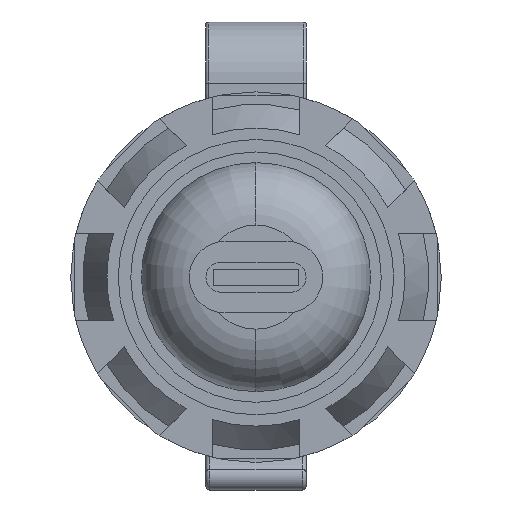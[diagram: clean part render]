
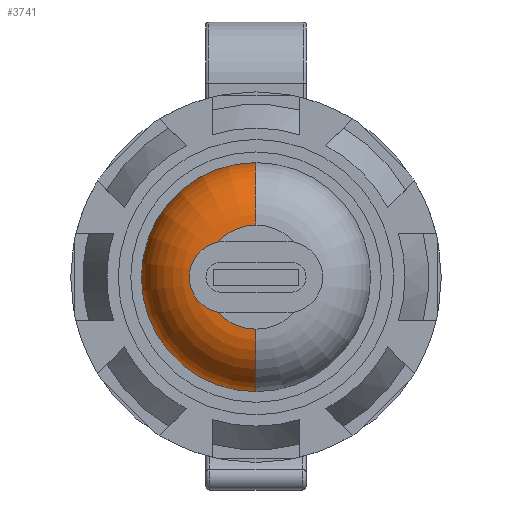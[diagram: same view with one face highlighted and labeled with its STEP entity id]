
A CAD part, front view. The second image highlights one B-rep face of the part: STEP entity #3741.
In plain terms, the highlighted toroidal (fillet/blend) face has major radius 4.15 mm and minor radius 5 mm.
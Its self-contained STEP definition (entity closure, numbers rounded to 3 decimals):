
#691 = ORIENTED_EDGE ( 'NONE', *, *, #6385, .F. ) ;
#785 = DIRECTION ( 'NONE',  ( 0., 1., 0. ) ) ;
#789 = DIRECTION ( 'NONE',  ( -1., 0., 0. ) ) ;
#991 = TOROIDAL_SURFACE ( 'NONE', #6206, 4.15, 5. ) ;
#1762 = ORIENTED_EDGE ( 'NONE', *, *, #4947, .F. ) ;
#2167 = DIRECTION ( 'NONE',  ( 0., 1., 0. ) ) ;
#2314 = AXIS2_PLACEMENT_3D ( 'NONE', #3726, #5867, #3636 ) ;
#2572 = EDGE_CURVE ( 'NONE', #8060, #2795, #6409, .T. ) ;
#2795 = VERTEX_POINT ( 'NONE', #7599 ) ;
#2811 = DIRECTION ( 'NONE',  ( 0., 0., 1. ) ) ;
#2991 = CIRCLE ( 'NONE', #4193, 5. ) ;
#3041 = DIRECTION ( 'NONE',  ( 1., 0., 0. ) ) ;
#3636 = DIRECTION ( 'NONE',  ( 0., 0., 1. ) ) ;
#3726 = CARTESIAN_POINT ( 'NONE',  ( 0., -20.5, 0. ) ) ;
#3741 = ADVANCED_FACE ( 'NONE', ( #4123 ), #991, .T. ) ;
#4123 = FACE_OUTER_BOUND ( 'NONE', #8634, .T. ) ;
#4193 = AXIS2_PLACEMENT_3D ( 'NONE', #4301, #789, #2811 ) ;
#4301 = CARTESIAN_POINT ( 'NONE',  ( 0., -20.5, 4.15 ) ) ;
#4412 = CARTESIAN_POINT ( 'NONE',  ( 0., -25.5, 0. ) ) ;
#4947 = EDGE_CURVE ( 'NONE', #8646, #2795, #5147, .T. ) ;
#5147 = CIRCLE ( 'NONE', #2314, 9.15 ) ;
#5192 = VERTEX_POINT ( 'NONE', #8391 ) ;
#5536 = AXIS2_PLACEMENT_3D ( 'NONE', #4412, #2167, #5662 ) ;
#5662 = DIRECTION ( 'NONE',  ( 0., 0., 1. ) ) ;
#5867 = DIRECTION ( 'NONE',  ( 0., 1., 0. ) ) ;
#6196 = ORIENTED_EDGE ( 'NONE', *, *, #2572, .T. ) ;
#6206 = AXIS2_PLACEMENT_3D ( 'NONE', #7834, #785, #7097 ) ;
#6266 = AXIS2_PLACEMENT_3D ( 'NONE', #6525, #3041, #8684 ) ;
#6385 = EDGE_CURVE ( 'NONE', #5192, #8646, #2991, .T. ) ;
#6409 = CIRCLE ( 'NONE', #6266, 5. ) ;
#6525 = CARTESIAN_POINT ( 'NONE',  ( 0., -20.5, -4.15 ) ) ;
#7097 = DIRECTION ( 'NONE',  ( 0., 0., 1. ) ) ;
#7174 = CIRCLE ( 'NONE', #5536, 4.15 ) ;
#7254 = EDGE_CURVE ( 'NONE', #5192, #8060, #7174, .T. ) ;
#7296 = ORIENTED_EDGE ( 'NONE', *, *, #7254, .T. ) ;
#7599 = CARTESIAN_POINT ( 'NONE',  ( 0., -20.5, -9.15 ) ) ;
#7834 = CARTESIAN_POINT ( 'NONE',  ( 0., -20.5, 0. ) ) ;
#8060 = VERTEX_POINT ( 'NONE', #8541 ) ;
#8391 = CARTESIAN_POINT ( 'NONE',  ( 0., -25.5, 4.15 ) ) ;
#8541 = CARTESIAN_POINT ( 'NONE',  ( 0., -25.5, -4.15 ) ) ;
#8634 = EDGE_LOOP ( 'NONE', ( #7296, #6196, #1762, #691 ) ) ;
#8646 = VERTEX_POINT ( 'NONE', #8794 ) ;
#8684 = DIRECTION ( 'NONE',  ( 0., 0., -1. ) ) ;
#8794 = CARTESIAN_POINT ( 'NONE',  ( 0., -20.5, 9.15 ) ) ;
